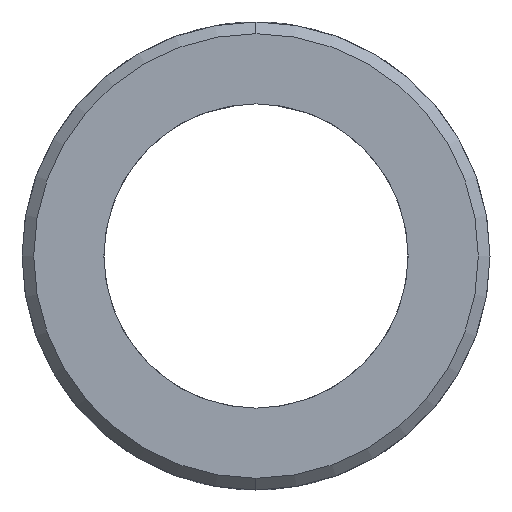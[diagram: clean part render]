
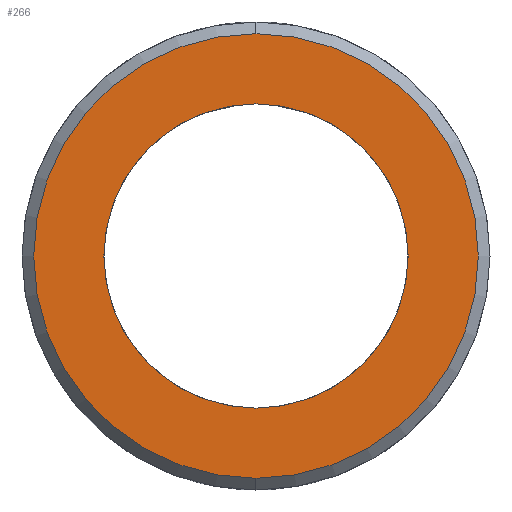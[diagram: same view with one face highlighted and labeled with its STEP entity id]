
A CAD part, left-side view. The second image highlights one B-rep face of the part: STEP entity #266.
In plain terms, the highlighted planar face has unit normal (-1, 0, 0).
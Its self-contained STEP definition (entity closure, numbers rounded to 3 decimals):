
#26 = CIRCLE ( 'NONE', #696, 19. ) ;
#36 = ORIENTED_EDGE ( 'NONE', *, *, #1140, .T. ) ;
#77 = DIRECTION ( 'NONE',  ( 0., 0., 1. ) ) ;
#82 = EDGE_CURVE ( 'NONE', #814, #456, #26, .T. ) ;
#102 = CARTESIAN_POINT ( 'NONE',  ( -45., 0., 19. ) ) ;
#156 = CARTESIAN_POINT ( 'NONE',  ( -45., 0., 0. ) ) ;
#184 = CARTESIAN_POINT ( 'NONE',  ( -45., 0., 0. ) ) ;
#222 = PLANE ( 'NONE',  #682 ) ;
#247 = DIRECTION ( 'NONE',  ( 0., 0., 1. ) ) ;
#266 = ADVANCED_FACE ( 'NONE', ( #650, #803 ), #222, .F. ) ;
#274 = DIRECTION ( 'NONE',  ( 0., 0., -1. ) ) ;
#308 = EDGE_LOOP ( 'NONE', ( #759, #912 ) ) ;
#343 = AXIS2_PLACEMENT_3D ( 'NONE', #156, #801, #247 ) ;
#416 = DIRECTION ( 'NONE',  ( 1., 0., 0. ) ) ;
#440 = EDGE_CURVE ( 'NONE', #1123, #564, #1154, .T. ) ;
#456 = VERTEX_POINT ( 'NONE', #721 ) ;
#475 = AXIS2_PLACEMENT_3D ( 'NONE', #184, #827, #274 ) ;
#480 = DIRECTION ( 'NONE',  ( 0., 0., -1. ) ) ;
#564 = VERTEX_POINT ( 'NONE', #796 ) ;
#575 = CARTESIAN_POINT ( 'NONE',  ( -45., 0., 0. ) ) ;
#589 = EDGE_CURVE ( 'NONE', #564, #1123, #832, .T. ) ;
#633 = DIRECTION ( 'NONE',  ( -1., 0., 0. ) ) ;
#650 = FACE_OUTER_BOUND ( 'NONE', #1131, .T. ) ;
#682 = AXIS2_PLACEMENT_3D ( 'NONE', #774, #416, #1047 ) ;
#696 = AXIS2_PLACEMENT_3D ( 'NONE', #575, #1107, #480 ) ;
#721 = CARTESIAN_POINT ( 'NONE',  ( -45., 0., -19. ) ) ;
#752 = ORIENTED_EDGE ( 'NONE', *, *, #82, .T. ) ;
#759 = ORIENTED_EDGE ( 'NONE', *, *, #440, .F. ) ;
#774 = CARTESIAN_POINT ( 'NONE',  ( -45., 13., 0. ) ) ;
#793 = CARTESIAN_POINT ( 'NONE',  ( -45., 0., 13. ) ) ;
#796 = CARTESIAN_POINT ( 'NONE',  ( -45., 0., -13. ) ) ;
#801 = DIRECTION ( 'NONE',  ( -1., 0., 0. ) ) ;
#803 = FACE_BOUND ( 'NONE', #308, .T. ) ;
#814 = VERTEX_POINT ( 'NONE', #102 ) ;
#827 = DIRECTION ( 'NONE',  ( -1., 0., 0. ) ) ;
#832 = CIRCLE ( 'NONE', #343, 13. ) ;
#912 = ORIENTED_EDGE ( 'NONE', *, *, #589, .F. ) ;
#1047 = DIRECTION ( 'NONE',  ( 0., 0., -1. ) ) ;
#1106 = CIRCLE ( 'NONE', #475, 19. ) ;
#1107 = DIRECTION ( 'NONE',  ( -1., 0., 0. ) ) ;
#1123 = VERTEX_POINT ( 'NONE', #793 ) ;
#1131 = EDGE_LOOP ( 'NONE', ( #36, #752 ) ) ;
#1140 = EDGE_CURVE ( 'NONE', #456, #814, #1106, .T. ) ;
#1154 = CIRCLE ( 'NONE', #1160, 13. ) ;
#1160 = AXIS2_PLACEMENT_3D ( 'NONE', #1172, #633, #77 ) ;
#1172 = CARTESIAN_POINT ( 'NONE',  ( -45., 0., 0. ) ) ;
